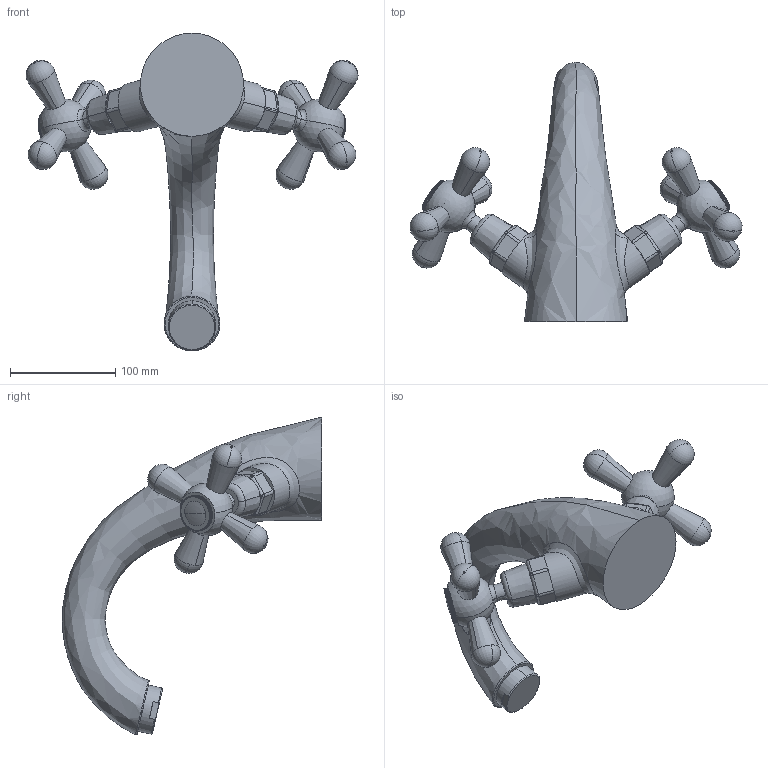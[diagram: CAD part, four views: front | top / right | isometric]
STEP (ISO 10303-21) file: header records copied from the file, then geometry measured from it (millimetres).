
FILE_DESCRIPTION (( 'STEP AP214' ), '1' );
FILE_NAME ('17F3243.STEP', '2020-04-02T09:24:35', ( '' ), ( '' ), 'SwSTEP 2.0', 'SolidWorks 2017', '' );
FILE_SCHEMA (( 'AUTOMOTIVE_DESIGN' ));
Length unit declared in the file: millimetre
Products named in the file (1): 17F3243
Bounding box: 315.17 x 246.26 x 301.67 mm (x, y, z)
Volume: 1681379.6 mm3; surface area: 146694.8 mm2
Topology: 1 solids, 1 shells, 1373 faces, 4007 edges, 2641 vertices
Faces by surface type: plane 947, cylinder 338, torus 33, sphere 24, cone 20, bspline 11
Entity records: 48339 total; most frequent: CARTESIAN_POINT 11458, ORIENTED_EDGE 7952, DIRECTION 7496, EDGE_CURVE 3976, VECTOR 3100, LINE 3100, VERTEX_POINT 2624, AXIS2_PLACEMENT_3D 2198
